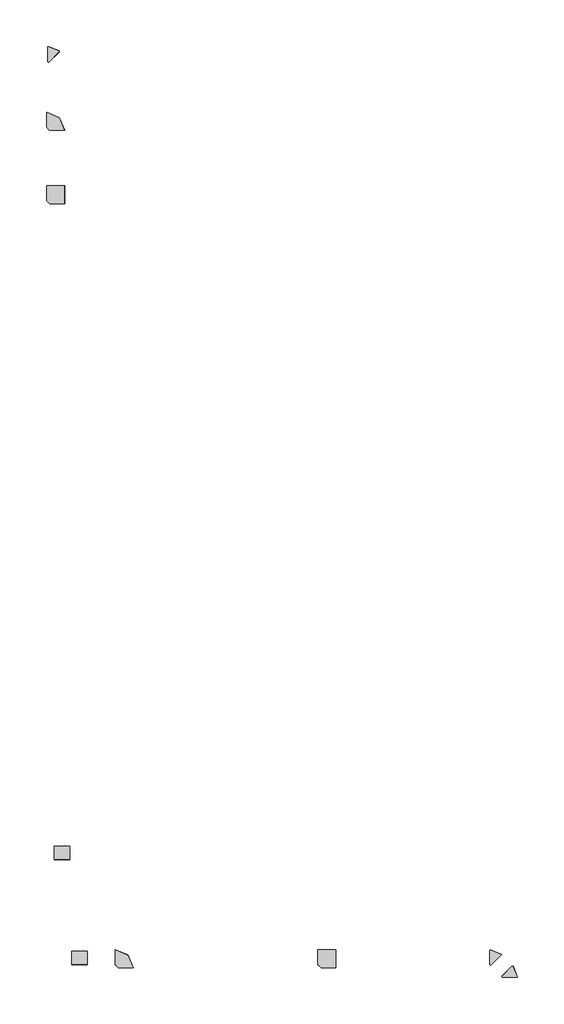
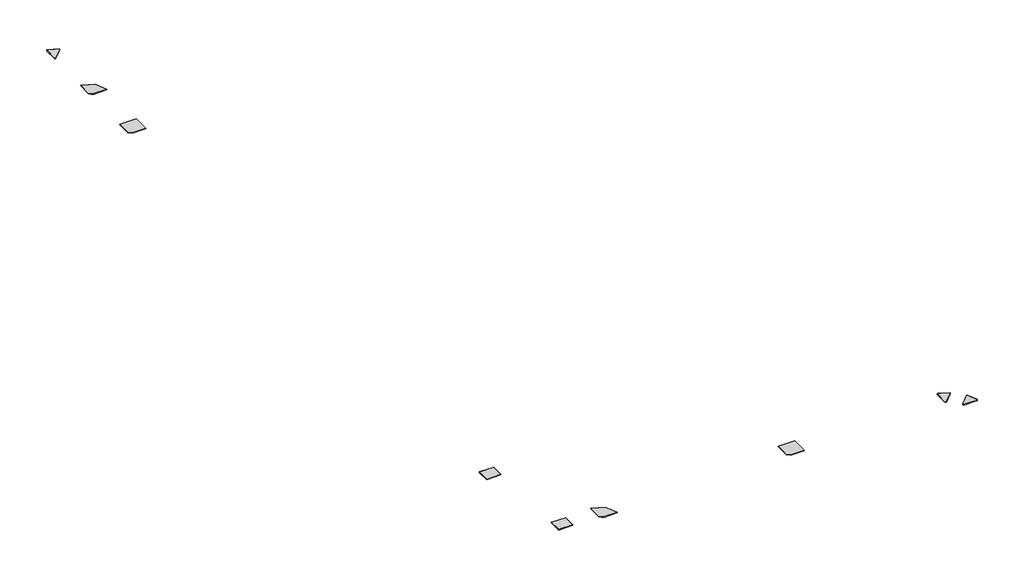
# Not in any storey, incomplete: 9 furniture elements.
"""IFC4 building model written with IfcOpenShell, lengths in millimetres."""

from ifc_helpers import new_model, si_unit, origin, place, context, project, spatial, transform, mapped, element, save
from components import furniture_83969a84, furniture_1a8e562f, furniture_022e260d, furniture_1d1b14d9

model = new_model("IFC4")

# Units and contexts
model_context = context("Model", 3, world=origin())
ifc_project = project(units=[si_unit("LENGTHUNIT", "METRE", prefix="MILLI")], contexts=[model_context])

# Site, building
site = spatial("IfcSite", under=ifc_project)
building = spatial("IfcBuilding", under=site)

# Furniture
placement = place(None, origin())
furniture_shape = furniture_83969a84(model_context)
element("IfcFurniture", 1, ObjectType="Wieland_HC-Monroe-Spanner_Table : 68MNST2124", at=placement, inside=building, context=model_context, shape_type="MappedRepresentation", body=[
    mapped(furniture_shape, transform((-13545.4747893, -31154.7459184, 0.0), x_axis=(1.0, 0.0, 0.0), y_axis=(0.0, 1.0, 0.0), z_axis=(0.0, 0.0, 1.0))),
])
element("IfcFurniture", 2, ObjectType="Wieland_HC-Monroe-Spanner_Table : 68MNST2124", at=placement, inside=building, context=model_context, shape_type="MappedRepresentation", body=[
    mapped(furniture_shape, transform((-12861.2807895, -35302.0108061, 0.0), x_axis=(1.0, 0.0, 0.0), y_axis=(0.0, 1.0, 0.0), z_axis=(0.0, 0.0, 1.0))),
])
furniture_2_shape = furniture_1a8e562f(model_context)
element("IfcFurniture", 3, ObjectType="Wieland_HC-Monroe-Corner_Top_Angled : 68MNTC45DEG", at=placement, inside=building, context=model_context, shape_type="MappedRepresentation", body=[
    mapped(furniture_2_shape, transform((-13790.6954952, 383.9384304, 0.0), x_axis=(1.0, 0.0, 0.0), y_axis=(0.0, 1.0, 0.0), z_axis=(0.0, 0.0, 1.0))),
])
element("IfcFurniture", 4, ObjectType="Wieland_HC-Monroe-Corner_Top_Angled : 68MNTC45DEG", at=placement, inside=building, context=model_context, shape_type="MappedRepresentation", body=[
    mapped(furniture_2_shape, transform((3665.4400497, -35302.1068332, 0.0), x_axis=(1.0, 0.0, 0.0), y_axis=(0.0, 1.0, 0.0), z_axis=(0.0, 0.0, 1.0))),
])
element("IfcFurniture", 5, ObjectType="Wieland_HC-Monroe-Corner_Top_Angled : 68MNTC45DEG", at=placement, inside=building, context=model_context, shape_type="MappedRepresentation", body=[
    mapped(furniture_2_shape, transform((4560.0230339, -35948.8321307, 0.0), x_axis=(0.7071067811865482, -0.7071067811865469, 0.0), y_axis=(0.7071067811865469, 0.7071067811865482, 0.0), z_axis=(0.0, 0.0, 1.0))),
])
furniture_3_shape = furniture_022e260d(model_context)
element("IfcFurniture", 6, ObjectType="Wieland_HC-Monroe-Corner_Top_Round : 68MNRC2828", at=placement, inside=building, context=model_context, shape_type="MappedRepresentation", body=[
    mapped(furniture_3_shape, transform((-13865.6352429, -2219.6364128, 0.0), x_axis=(1.0, 0.0, 0.0), y_axis=(0.0, 1.0, 0.0), z_axis=(0.0, 0.0, 1.0))),
])
element("IfcFurniture", 7, ObjectType="Wieland_HC-Monroe-Corner_Top_Round : 68MNRC2828", at=placement, inside=building, context=model_context, shape_type="MappedRepresentation", body=[
    mapped(furniture_3_shape, transform((-11153.1307895, -35302.0108061, 0.0), x_axis=(1.0, 0.0, 0.0), y_axis=(0.0, 1.0, 0.0), z_axis=(0.0, 0.0, 1.0))),
])
furniture_4_shape = furniture_1d1b14d9(model_context)
element("IfcFurniture", 8, ObjectType="Wieland_HC-Monroe-Corner_Top_Square : 68MNSC2828", at=placement, inside=building, context=model_context, shape_type="MappedRepresentation", body=[
    mapped(furniture_4_shape, transform((-13865.6352429, -5117.2900465, 0.0), x_axis=(1.0, 0.0, 0.0), y_axis=(0.0, 1.0, 0.0), z_axis=(0.0, 0.0, 1.0))),
])
element("IfcFurniture", 9, ObjectType="Wieland_HC-Monroe-Corner_Top_Square : 68MNSC2828", at=placement, inside=building, context=model_context, shape_type="MappedRepresentation", body=[
    mapped(furniture_4_shape, transform((-3146.6117232, -35302.1068332, 0.0), x_axis=(1.0, 0.0, 0.0), y_axis=(0.0, 1.0, 0.0), z_axis=(0.0, 0.0, 1.0))),
])

save(model, "model.ifc")
